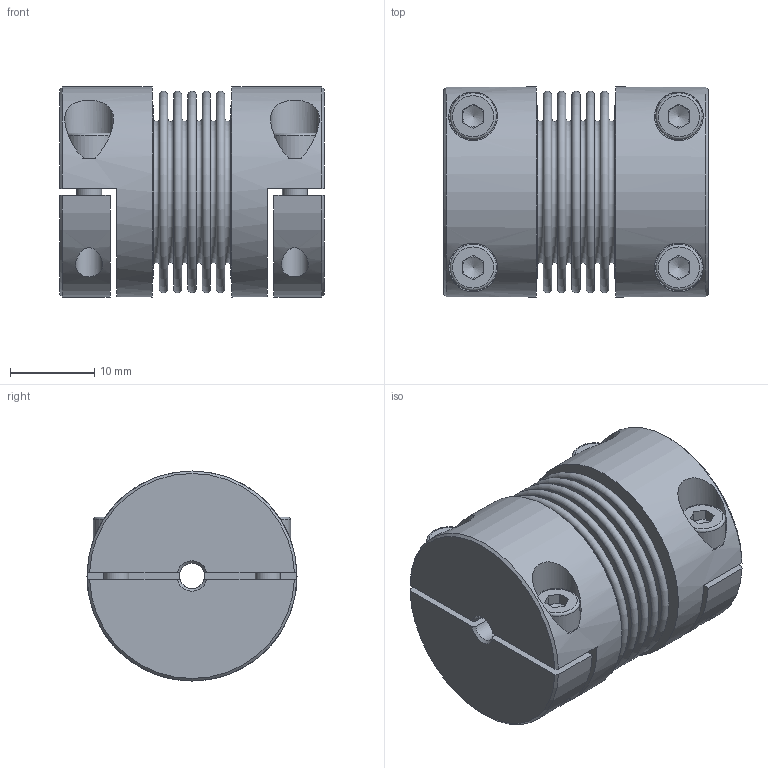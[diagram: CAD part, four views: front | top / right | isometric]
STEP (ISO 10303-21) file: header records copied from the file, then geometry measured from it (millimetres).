
FILE_DESCRIPTION( ( 'Unknown' ), '1' );
FILE_NAME( 'K:/Konstruktion/KB2H/KB2H-20-32.stp', 'Unknown', ( 'Unknown' ), ( 'Unknown' ), 'PSStep 16.0.42', 'Unknown', ' ' );
FILE_SCHEMA( ( 'AUTOMOTIVE_DESIGN { 1 0 10303 214 1 1 1 1 }' ) );
Length unit declared in the file: millimetre
Products named in the file (5): Assem1; KNH-20; Socket Head Cap Screw_DIN_DIN 912 M3 x 10 --- 10N_2; BK20_Standard_1
Assembly tree (9 placements, depth 2):
  Assem1
    KNH-20  x2
    KNH-20  x2
    Socket Head Cap Screw_DIN_DIN 912 M3 x 10 --- 10N_2  x4
    BK20_Standard_1
Bounding box: 31.5 x 25 x 25 mm (x, y, z)
Volume: 10225.6 mm3; surface area: 13426.1 mm2
Topology: 9 solids, 9 shells, 190 faces, 388 edges, 246 vertices
Faces by surface type: plane 108, torus 34, cylinder 32, cone 16
Full cylindrical faces by diameter (mm): 3 x6, 3.2 x8, 5.5 x4, 21 x2, 21.3 x2, 25 x2
Entity records: 3530 total; most frequent: CARTESIAN_POINT 615, DIRECTION 448, ORIENTED_EDGE 290, AXIS2_PLACEMENT_3D 203, EDGE_LOOP 182, EDGE_CURVE 145, FACE_OUTER_BOUND 142, VERTEX_POINT 130
